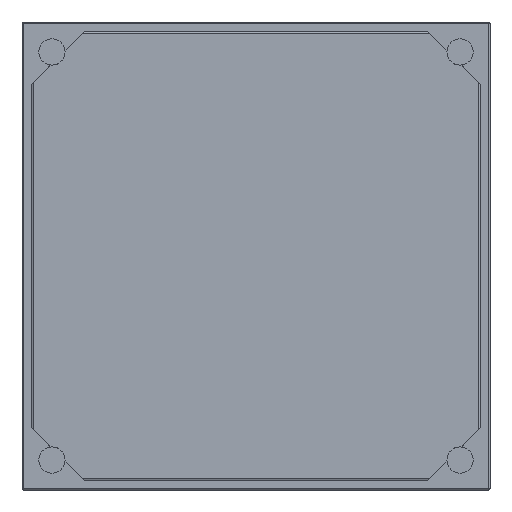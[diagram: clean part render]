
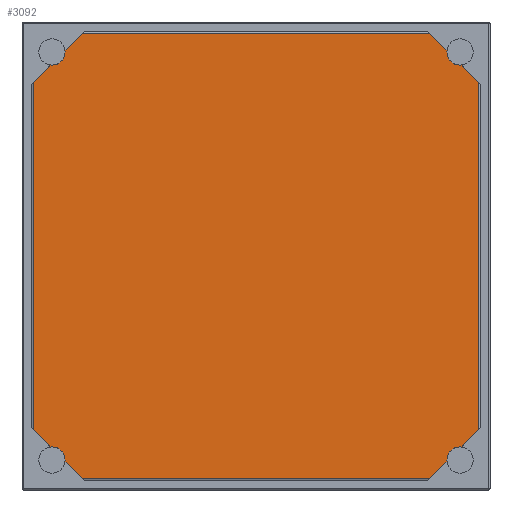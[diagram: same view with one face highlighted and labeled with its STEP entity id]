
A CAD part, front view. The second image highlights one B-rep face of the part: STEP entity #3092.
In plain terms, the highlighted planar face has unit normal (0, -1, 0).
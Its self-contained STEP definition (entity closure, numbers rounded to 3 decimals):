
#206=PLANE('',#3457);
#388=FACE_OUTER_BOUND('',#582,.T.);
#582=EDGE_LOOP('',(#2809,#2810,#2811,#2812));
#926=LINE('',#5222,#1236);
#928=LINE('',#5239,#1238);
#932=LINE('',#5252,#1242);
#934=LINE('',#5255,#1244);
#1236=VECTOR('',#4319,10.);
#1238=VECTOR('',#4339,10.);
#1242=VECTOR('',#4355,10.);
#1244=VECTOR('',#4359,10.);
#1499=VERTEX_POINT('',#5203);
#1505=VERTEX_POINT('',#5217);
#1509=VERTEX_POINT('',#5231);
#1514=VERTEX_POINT('',#5247);
#1921=EDGE_CURVE('',#1499,#1505,#926,.T.);
#1929=EDGE_CURVE('',#1509,#1499,#928,.T.);
#1936=EDGE_CURVE('',#1505,#1514,#932,.T.);
#1938=EDGE_CURVE('',#1514,#1509,#934,.T.);
#2809=ORIENTED_EDGE('',*,*,#1921,.F.);
#2810=ORIENTED_EDGE('',*,*,#1929,.F.);
#2811=ORIENTED_EDGE('',*,*,#1938,.F.);
#2812=ORIENTED_EDGE('',*,*,#1936,.F.);
#3092=ADVANCED_FACE('',(#388),#206,.F.);
#3457=AXIS2_PLACEMENT_3D('',#5278,#4390,#4391);
#4319=DIRECTION('',(0.,0.,-1.));
#4339=DIRECTION('',(1.,0.,0.));
#4355=DIRECTION('',(-1.,0.,0.));
#4359=DIRECTION('',(0.,0.,1.));
#4390=DIRECTION('center_axis',(0.,1.,0.));
#4391=DIRECTION('ref_axis',(0.,0.,1.));
#5203=CARTESIAN_POINT('',(238.,0.,238.));
#5217=CARTESIAN_POINT('',(238.,0.,-238.));
#5222=CARTESIAN_POINT('',(238.,0.,120.));
#5231=CARTESIAN_POINT('',(-238.,0.,238.));
#5239=CARTESIAN_POINT('',(-120.,0.,238.));
#5247=CARTESIAN_POINT('',(-238.,0.,-238.));
#5252=CARTESIAN_POINT('',(120.,0.,-238.));
#5255=CARTESIAN_POINT('',(-238.,0.,-120.));
#5278=CARTESIAN_POINT('Origin',(0.,0.,0.));
